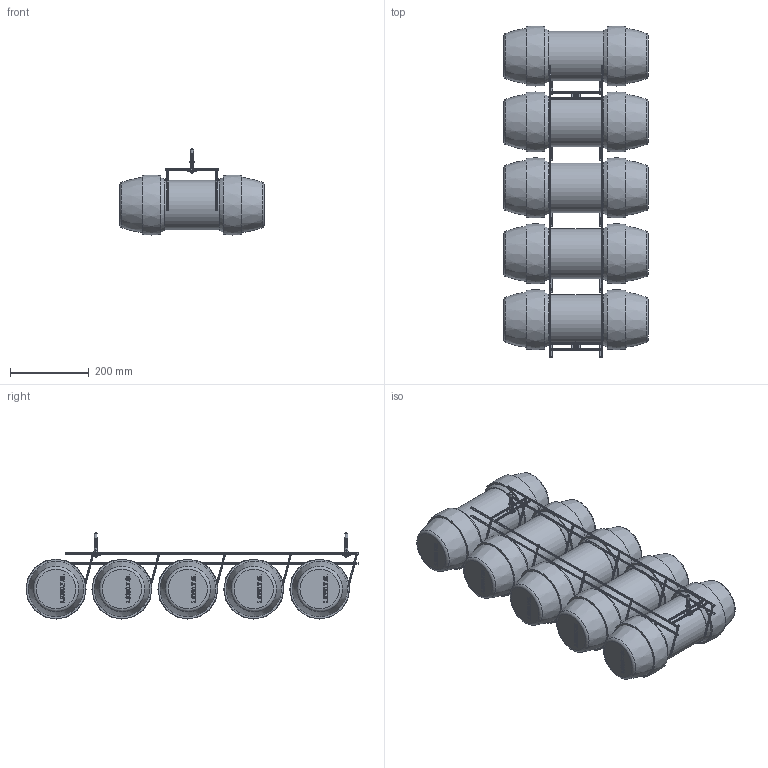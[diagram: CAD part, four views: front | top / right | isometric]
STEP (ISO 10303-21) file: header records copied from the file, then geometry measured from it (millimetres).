
FILE_DESCRIPTION(/* description */ (''),/* implementation_level */ '2;1');
FILE_NAME(/* name */ 'Q:\I_Simples\Library\Inventor\Behälteranlage\Step\19001T00_Rack_160_350.stp',/* time_stamp */ '2023-07-14T11:06:41+02:00',/* author */ ('Ru'),/* organization */ (''),/* preprocessor_version */ 'ST-DEVELOPER v18.1',/* originating_system */ 'Autodesk Inventor 2022',/* authorisation */ '');
FILE_SCHEMA (('AUTOMOTIVE_DESIGN { 1 0 10303 214 3 1 1 }'));
Length unit declared in the file: millimetre
Products named in the file (8): Behälteranlage+Carriers TBH350_A200; Assembly2; 19001T00_Behälteranlage_Dummy_A200; Karosseriescheibe_M7_DIN_9021; 8.4105.0.45; 8.2902.0.08; 8.6100.0.09; 19350T0L-dummy
Assembly tree (15 placements, depth 3):
  Behälteranlage+Carriers TBH350_A200
    Assembly2
      19001T00_Behälteranlage_Dummy_A200
      Karosseriescheibe_M7_DIN_9021  x2
      8.4105.0.45  x2
      8.2902.0.08  x2
      8.6100.0.09  x2
    19350T0L-dummy  x5
Bounding box: 366 x 841 x 218 mm (x, y, z)
Volume: 25855052.8 mm3; surface area: 993535.8 mm2
Topology: 14 solids, 14 shells, 1861 faces, 5008 edges, 3262 vertices
Faces by surface type: plane 1214, bspline 410, cylinder 215, torus 12, cone 8, sphere 2
Full cylindrical faces by diameter (mm): 3.5 x2, 5 x2, 5.5 x2, 6.4 x2, 7.4 x2, 7.9 x2, 10 x2, 13 x2, 18 x2, 22 x2, 126 x5
Entity records: 27272 total; most frequent: CARTESIAN_POINT 6392, ORIENTED_EDGE 4396, DIRECTION 4046, EDGE_CURVE 2198, VERTEX_POINT 1411, LINE 1356, VECTOR 1356, AXIS2_PLACEMENT_3D 1345
